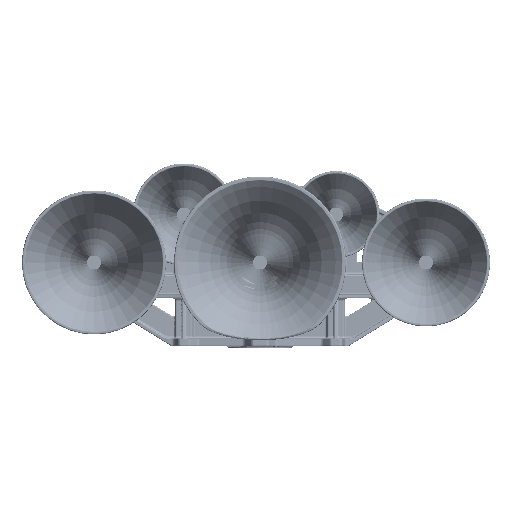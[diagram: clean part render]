
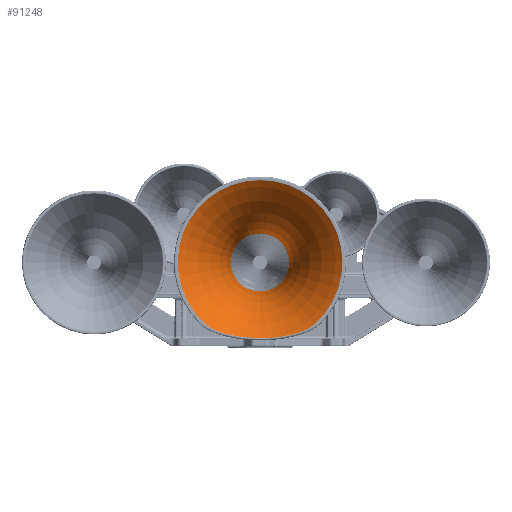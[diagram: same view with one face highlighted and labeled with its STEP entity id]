
A CAD part, front view. The second image highlights one B-rep face of the part: STEP entity #91248.
In plain terms, the highlighted toroidal (fillet/blend) face has major radius 254.72 mm and minor radius 211.137 mm.
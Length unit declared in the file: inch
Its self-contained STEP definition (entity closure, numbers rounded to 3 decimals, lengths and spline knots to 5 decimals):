
#1278=TOROIDAL_SURFACE('',#97532,10.02836,8.3125);
#3928=B_SPLINE_CURVE_WITH_KNOTS('',3,(#165337,#165338,#165339,#165340,#165341,
#165342,#165343,#165344,#165345),.UNSPECIFIED.,.F.,.F.,(4,1,1,1,1,1,4),
(0.,0.65883,1.31765,2.63531,5.27061,
7.90592,9.22355),.UNSPECIFIED.);
#3929=B_SPLINE_CURVE_WITH_KNOTS('',3,(#165346,#165347,#165348,#165349,#165350,
#165351,#165352,#165353,#165354),.UNSPECIFIED.,.F.,.F.,(4,1,1,1,1,1,4),
(9.22355,10.54123,13.17654,15.81184,17.1295,
17.78832,18.44715),.UNSPECIFIED.);
#11611=FACE_OUTER_BOUND('',#17303,.T.);
#17303=EDGE_LOOP('',(#70244,#70245,#70246,#70247,#70248,#70249));
#33673=CIRCLE('',#97515,5.14195);
#33687=CIRCLE('',#97533,8.3125);
#33688=CIRCLE('',#97534,1.8125);
#40239=VERTEX_POINT('',#165245);
#40240=VERTEX_POINT('',#165247);
#40242=VERTEX_POINT('',#165336);
#40279=VERTEX_POINT('',#168446);
#50850=EDGE_CURVE('',#40239,#40240,#33673,.T.);
#50854=EDGE_CURVE('',#40240,#40242,#3928,.T.);
#50855=EDGE_CURVE('',#40242,#40239,#3929,.T.);
#50910=EDGE_CURVE('',#40242,#40279,#33687,.T.);
#50911=EDGE_CURVE('',#40279,#40279,#33688,.T.);
#70244=ORIENTED_EDGE('',*,*,#50850,.F.);
#70245=ORIENTED_EDGE('',*,*,#50855,.F.);
#70246=ORIENTED_EDGE('',*,*,#50910,.T.);
#70247=ORIENTED_EDGE('',*,*,#50911,.T.);
#70248=ORIENTED_EDGE('',*,*,#50910,.F.);
#70249=ORIENTED_EDGE('',*,*,#50854,.F.);
#91248=ADVANCED_FACE('',(#11611),#1278,.T.);
#97515=AXIS2_PLACEMENT_3D('',#165248,#111047,#111048);
#97532=AXIS2_PLACEMENT_3D('',#168445,#111085,#111086);
#97533=AXIS2_PLACEMENT_3D('',#168447,#111087,#111088);
#97534=AXIS2_PLACEMENT_3D('',#168448,#111089,#111090);
#111047=DIRECTION('center_axis',(0.,1.,0.));
#111048=DIRECTION('ref_axis',(0.,0.,1.));
#111085=DIRECTION('center_axis',(0.,1.,0.));
#111086=DIRECTION('ref_axis',(0.,0.,1.));
#111087=DIRECTION('center_axis',(-1.,0.,0.));
#111088=DIRECTION('ref_axis',(0.,0.,-1.));
#111089=DIRECTION('center_axis',(0.,1.,0.));
#111090=DIRECTION('ref_axis',(1.,0.,0.));
#165245=CARTESIAN_POINT('',(-3.41121,-22.45681,-3.84751));
#165247=CARTESIAN_POINT('',(3.41121,-22.45681,-3.84751));
#165248=CARTESIAN_POINT('Origin',(0.,-22.45681,0.));
#165336=CARTESIAN_POINT('',(0.,-22.13972,-4.73294));
#165337=CARTESIAN_POINT('Ctrl Pts',(3.41121,-22.45681,
-3.84751));
#165338=CARTESIAN_POINT('Ctrl Pts',(3.34698,-22.45681,
-3.90446));
#165339=CARTESIAN_POINT('Ctrl Pts',(3.20962,-22.45004,
-4.00799));
#165340=CARTESIAN_POINT('Ctrl Pts',(2.91448,-22.42075,
-4.18217));
#165341=CARTESIAN_POINT('Ctrl Pts',(2.36481,-22.34576,-4.41804));
#165342=CARTESIAN_POINT('Ctrl Pts',(1.53701,-22.22639,
-4.62478));
#165343=CARTESIAN_POINT('Ctrl Pts',(0.686,-22.15098,
-4.7188));
#165344=CARTESIAN_POINT('Ctrl Pts',(0.1715,-22.13973,
-4.73295));
#165345=CARTESIAN_POINT('Ctrl Pts',(0.,-22.13975,
-4.73296));
#165346=CARTESIAN_POINT('Ctrl Pts',(0.,-22.13975,
-4.73296));
#165347=CARTESIAN_POINT('Ctrl Pts',(-0.1715,-22.13976,
-4.73297));
#165348=CARTESIAN_POINT('Ctrl Pts',(-0.686,-22.15109,
-4.71887));
#165349=CARTESIAN_POINT('Ctrl Pts',(-1.53688,-22.22621,
-4.62455));
#165350=CARTESIAN_POINT('Ctrl Pts',(-2.36506,-22.34588,
-4.41813));
#165351=CARTESIAN_POINT('Ctrl Pts',(-2.91438,-22.42075,
-4.18224));
#165352=CARTESIAN_POINT('Ctrl Pts',(-3.20963,-22.45005,
-4.00801));
#165353=CARTESIAN_POINT('Ctrl Pts',(-3.34698,-22.45681,
-3.90446));
#165354=CARTESIAN_POINT('Ctrl Pts',(-3.41121,-22.45681,
-3.84751));
#168445=CARTESIAN_POINT('Origin',(0.,-15.73218,0.));
#168446=CARTESIAN_POINT('',(0.,-16.99601,-1.8125));
#168447=CARTESIAN_POINT('Origin',(0.,-15.73218,
-10.02836));
#168448=CARTESIAN_POINT('Origin',(0.,-16.99601,0.));
